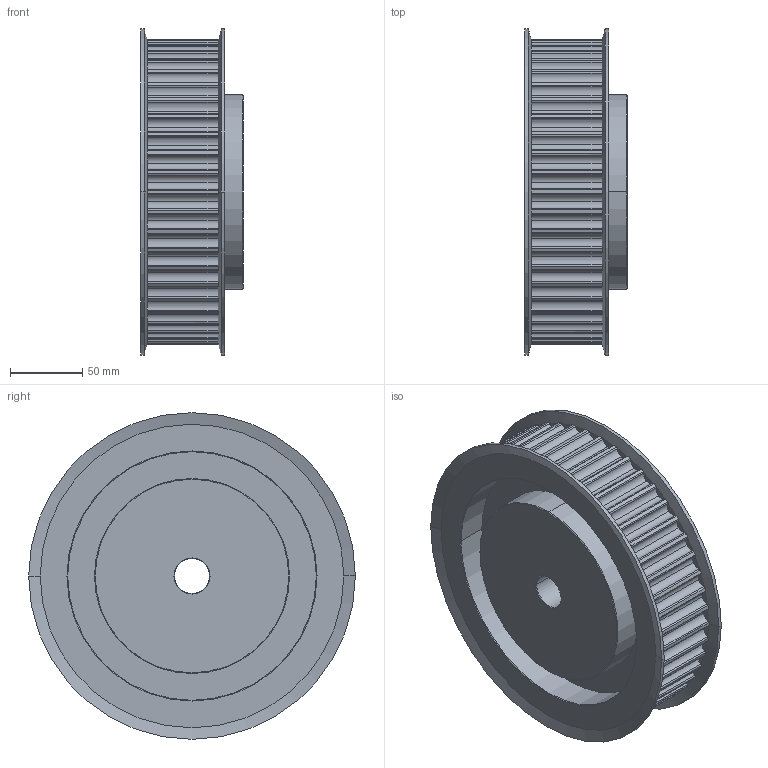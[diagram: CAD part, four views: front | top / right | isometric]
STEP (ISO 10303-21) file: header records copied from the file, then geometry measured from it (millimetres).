
FILE_DESCRIPTION(('STEP AP203'),'1');
FILE_NAME('48_-_14_m_40.stp','2018-11-22T09:56:51',('TraceParts'),('TraceParts S.A.'),'Spatial InterOp 3D',' ',' ');
FILE_SCHEMA(('CONFIG_CONTROL_DESIGN'));
Length unit declared in the file: millimetre
Products named in the file (1): 1
Bounding box: 71.14 x 226 x 226 mm (x, y, z)
Volume: 1642921.4 mm3; surface area: 191245.1 mm2
Topology: 1 solids, 1 shells, 376 faces, 1098 edges, 728 vertices
Faces by surface type: cylinder 254, plane 102, cone 20
Entity records: 13806 total; most frequent: CARTESIAN_POINT 3547, DIRECTION 2292, ORIENTED_EDGE 2196, EDGE_CURVE 1098, AXIS2_PLACEMENT_3D 1009, VERTEX_POINT 728, CIRCLE 632, EDGE_LOOP 382
